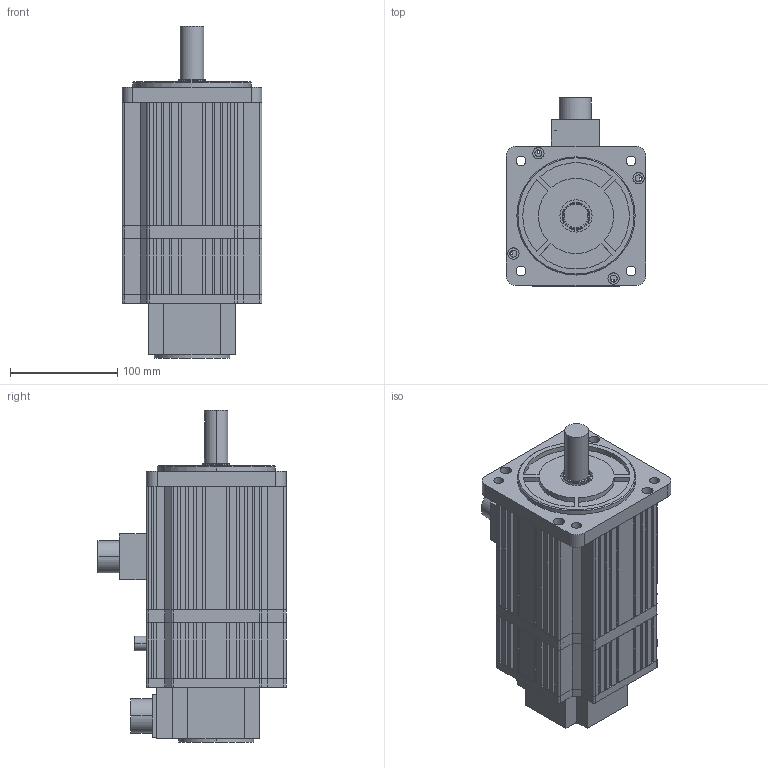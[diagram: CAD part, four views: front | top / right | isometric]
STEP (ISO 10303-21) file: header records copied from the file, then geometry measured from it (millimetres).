
FILE_DESCRIPTION (( 'STEP AP203' ), '1' );
FILE_NAME ('130-07725（带抱闸）.STEP', '2020-03-09T14:02:31', ( '' ), ( '' ), 'SwSTEP 2.0', 'SolidWorks 2016', '' );
FILE_SCHEMA (( 'CONFIG_CONTROL_DESIGN' ));
Length unit declared in the file: millimetre
Products named in the file (12): 130-7.7N隅赽; 130晤鎢ん; 130瑤脣; 130惕掅儂褲; 130侜督ヶ裔; 130侜督惕掅傷裔; 130-07725（带抱闸）; 130粣; 惕掅芛; 130惕掅蚾饜极; 130侜督綴裔; 130瑤脣2_2
Assembly tree (11 placements, depth 3):
  130-07725（带抱闸）
    130-7.7N隅赽
    130侜督ヶ裔
    130侜督綴裔
    130晤鎢ん
    130粣
    130瑤脣
    130惕掅蚾饜极
      130惕掅儂褲
      130侜督惕掅傷裔
      惕掅芛
    130瑤脣2_2
Bounding box: 130 x 175 x 309 mm (x, y, z)
Volume: 1339744.8 mm3; surface area: 417205.6 mm2
Topology: 14 solids, 14 shells, 832 faces, 2147 edges, 1408 vertices
Faces by surface type: plane 563, cylinder 249, cone 10, bspline 8, torus 2
Entity records: 26650 total; most frequent: CARTESIAN_POINT 4548, DIRECTION 4345, ORIENTED_EDGE 4278, EDGE_CURVE 2139, VECTOR 1555, LINE 1555, VERTEX_POINT 1408, AXIS2_PLACEMENT_3D 1395
